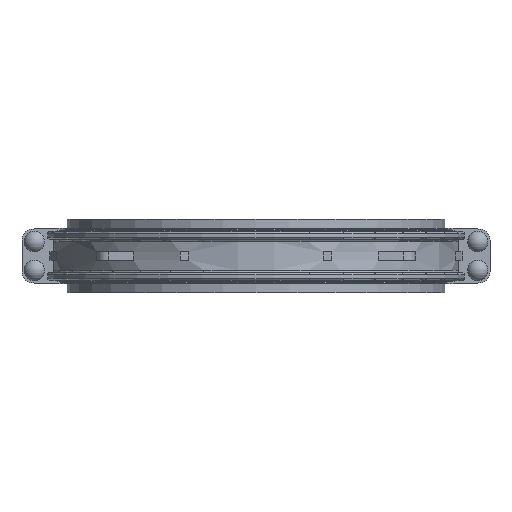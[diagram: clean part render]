
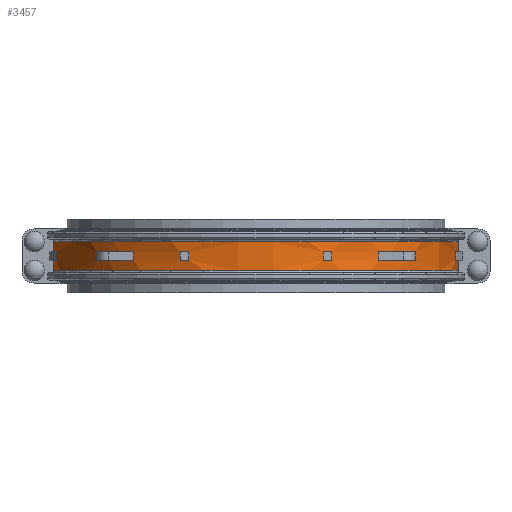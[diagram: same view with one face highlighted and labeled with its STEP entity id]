
A CAD part, front view. The second image highlights one B-rep face of the part: STEP entity #3457.
In plain terms, the highlighted cylindrical face has radius 628.777 mm (diameter 1257.55 mm), a partial arc.
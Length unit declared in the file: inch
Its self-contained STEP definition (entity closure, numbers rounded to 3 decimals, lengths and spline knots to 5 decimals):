
#135=CYLINDRICAL_SURFACE('',#3801,24.755);
#181=FACE_BOUND('',#501,.T.);
#182=FACE_BOUND('',#502,.T.);
#183=FACE_BOUND('',#503,.T.);
#184=FACE_BOUND('',#504,.T.);
#295=FACE_OUTER_BOUND('',#500,.T.);
#500=EDGE_LOOP('',(#2554,#2555,#2556,#2557,#2558,#2559,#2560,#2561,#2562,
#2563,#2564,#2565));
#501=EDGE_LOOP('',(#2566,#2567,#2568,#2569));
#502=EDGE_LOOP('',(#2570,#2571,#2572,#2573));
#503=EDGE_LOOP('',(#2574,#2575,#2576,#2577));
#504=EDGE_LOOP('',(#2578,#2579,#2580,#2581));
#722=LINE('',#5397,#979);
#723=LINE('',#5399,#980);
#726=LINE('',#5404,#983);
#727=LINE('',#5406,#984);
#748=LINE('',#5440,#1005);
#749=LINE('',#5442,#1006);
#752=LINE('',#5447,#1009);
#753=LINE('',#5449,#1010);
#755=LINE('',#5452,#1012);
#756=LINE('',#5454,#1013);
#774=LINE('',#5650,#1031);
#775=LINE('',#5653,#1032);
#776=LINE('',#5655,#1033);
#777=LINE('',#5658,#1034);
#979=VECTOR('',#4401,0.3937);
#980=VECTOR('',#4404,0.3937);
#983=VECTOR('',#4411,0.3937);
#984=VECTOR('',#4414,0.3937);
#1005=VECTOR('',#4461,0.3937);
#1006=VECTOR('',#4464,0.3937);
#1009=VECTOR('',#4471,0.3937);
#1010=VECTOR('',#4474,0.3937);
#1012=VECTOR('',#4478,0.3937);
#1013=VECTOR('',#4481,0.3937);
#1031=VECTOR('',#4513,0.3937);
#1032=VECTOR('',#4516,0.3937);
#1033=VECTOR('',#4517,0.3937);
#1034=VECTOR('',#4520,0.3937);
#1172=CIRCLE('',#3718,24.755);
#1173=CIRCLE('',#3720,24.755);
#1176=CIRCLE('',#3724,24.755);
#1177=CIRCLE('',#3726,24.755);
#1178=CIRCLE('',#3728,24.755);
#1181=CIRCLE('',#3732,24.755);
#1183=CIRCLE('',#3736,24.755);
#1184=CIRCLE('',#3738,24.755);
#1187=CIRCLE('',#3742,24.755);
#1188=CIRCLE('',#3744,24.755);
#1189=CIRCLE('',#3746,24.755);
#1192=CIRCLE('',#3750,24.755);
#1207=CIRCLE('',#3802,24.755);
#1208=CIRCLE('',#3803,24.755);
#1386=VERTEX_POINT('',#5231);
#1387=VERTEX_POINT('',#5232);
#1389=VERTEX_POINT('',#5238);
#1390=VERTEX_POINT('',#5239);
#1394=VERTEX_POINT('',#5249);
#1395=VERTEX_POINT('',#5250);
#1397=VERTEX_POINT('',#5256);
#1398=VERTEX_POINT('',#5257);
#1400=VERTEX_POINT('',#5263);
#1401=VERTEX_POINT('',#5264);
#1406=VERTEX_POINT('',#5275);
#1407=VERTEX_POINT('',#5277);
#1411=VERTEX_POINT('',#5288);
#1412=VERTEX_POINT('',#5289);
#1414=VERTEX_POINT('',#5295);
#1415=VERTEX_POINT('',#5296);
#1419=VERTEX_POINT('',#5306);
#1420=VERTEX_POINT('',#5307);
#1422=VERTEX_POINT('',#5313);
#1423=VERTEX_POINT('',#5314);
#1425=VERTEX_POINT('',#5320);
#1426=VERTEX_POINT('',#5321);
#1430=VERTEX_POINT('',#5331);
#1432=VERTEX_POINT('',#5334);
#1485=VERTEX_POINT('',#5649);
#1486=VERTEX_POINT('',#5651);
#1487=VERTEX_POINT('',#5654);
#1488=VERTEX_POINT('',#5656);
#1746=EDGE_CURVE('',#1386,#1387,#1172,.T.);
#1749=EDGE_CURVE('',#1389,#1390,#1173,.T.);
#1754=EDGE_CURVE('',#1394,#1395,#1176,.T.);
#1757=EDGE_CURVE('',#1397,#1398,#1177,.T.);
#1760=EDGE_CURVE('',#1400,#1401,#1178,.T.);
#1767=EDGE_CURVE('',#1406,#1407,#1181,.T.);
#1771=EDGE_CURVE('',#1411,#1412,#1183,.T.);
#1774=EDGE_CURVE('',#1414,#1415,#1184,.T.);
#1779=EDGE_CURVE('',#1419,#1420,#1187,.T.);
#1782=EDGE_CURVE('',#1422,#1423,#1188,.T.);
#1785=EDGE_CURVE('',#1425,#1426,#1189,.T.);
#1791=EDGE_CURVE('',#1432,#1430,#1192,.T.);
#1820=EDGE_CURVE('',#1423,#1397,#722,.T.);
#1821=EDGE_CURVE('',#1401,#1425,#723,.T.);
#1824=EDGE_CURVE('',#1426,#1400,#726,.T.);
#1825=EDGE_CURVE('',#1407,#1432,#727,.T.);
#1846=EDGE_CURVE('',#1412,#1386,#748,.T.);
#1847=EDGE_CURVE('',#1390,#1414,#749,.T.);
#1850=EDGE_CURVE('',#1415,#1389,#752,.T.);
#1851=EDGE_CURVE('',#1395,#1419,#753,.T.);
#1853=EDGE_CURVE('',#1420,#1394,#755,.T.);
#1854=EDGE_CURVE('',#1398,#1422,#756,.T.);
#1888=EDGE_CURVE('',#1430,#1485,#774,.T.);
#1889=EDGE_CURVE('',#1486,#1485,#1207,.T.);
#1890=EDGE_CURVE('',#1486,#1411,#775,.T.);
#1891=EDGE_CURVE('',#1387,#1487,#776,.T.);
#1892=EDGE_CURVE('',#1487,#1488,#1208,.T.);
#1893=EDGE_CURVE('',#1488,#1406,#777,.T.);
#2554=ORIENTED_EDGE('',*,*,#1825,.T.);
#2555=ORIENTED_EDGE('',*,*,#1791,.T.);
#2556=ORIENTED_EDGE('',*,*,#1888,.T.);
#2557=ORIENTED_EDGE('',*,*,#1889,.F.);
#2558=ORIENTED_EDGE('',*,*,#1890,.T.);
#2559=ORIENTED_EDGE('',*,*,#1771,.T.);
#2560=ORIENTED_EDGE('',*,*,#1846,.T.);
#2561=ORIENTED_EDGE('',*,*,#1746,.T.);
#2562=ORIENTED_EDGE('',*,*,#1891,.T.);
#2563=ORIENTED_EDGE('',*,*,#1892,.T.);
#2564=ORIENTED_EDGE('',*,*,#1893,.T.);
#2565=ORIENTED_EDGE('',*,*,#1767,.T.);
#2566=ORIENTED_EDGE('',*,*,#1760,.T.);
#2567=ORIENTED_EDGE('',*,*,#1821,.T.);
#2568=ORIENTED_EDGE('',*,*,#1785,.T.);
#2569=ORIENTED_EDGE('',*,*,#1824,.T.);
#2570=ORIENTED_EDGE('',*,*,#1757,.T.);
#2571=ORIENTED_EDGE('',*,*,#1854,.T.);
#2572=ORIENTED_EDGE('',*,*,#1782,.T.);
#2573=ORIENTED_EDGE('',*,*,#1820,.T.);
#2574=ORIENTED_EDGE('',*,*,#1754,.T.);
#2575=ORIENTED_EDGE('',*,*,#1851,.T.);
#2576=ORIENTED_EDGE('',*,*,#1779,.T.);
#2577=ORIENTED_EDGE('',*,*,#1853,.T.);
#2578=ORIENTED_EDGE('',*,*,#1749,.T.);
#2579=ORIENTED_EDGE('',*,*,#1847,.T.);
#2580=ORIENTED_EDGE('',*,*,#1774,.T.);
#2581=ORIENTED_EDGE('',*,*,#1850,.T.);
#3457=ADVANCED_FACE('',(#295,#181,#182,#183,#184),#135,.T.);
#3718=AXIS2_PLACEMENT_3D('',#5233,#4250,#4251);
#3720=AXIS2_PLACEMENT_3D('',#5240,#4256,#4257);
#3724=AXIS2_PLACEMENT_3D('',#5251,#4266,#4267);
#3726=AXIS2_PLACEMENT_3D('',#5258,#4272,#4273);
#3728=AXIS2_PLACEMENT_3D('',#5265,#4278,#4279);
#3732=AXIS2_PLACEMENT_3D('',#5279,#4290,#4291);
#3736=AXIS2_PLACEMENT_3D('',#5290,#4300,#4301);
#3738=AXIS2_PLACEMENT_3D('',#5297,#4306,#4307);
#3742=AXIS2_PLACEMENT_3D('',#5308,#4316,#4317);
#3744=AXIS2_PLACEMENT_3D('',#5315,#4322,#4323);
#3746=AXIS2_PLACEMENT_3D('',#5322,#4328,#4329);
#3750=AXIS2_PLACEMENT_3D('',#5335,#4339,#4340);
#3801=AXIS2_PLACEMENT_3D('',#5648,#4511,#4512);
#3802=AXIS2_PLACEMENT_3D('',#5652,#4514,#4515);
#3803=AXIS2_PLACEMENT_3D('',#5657,#4518,#4519);
#4250=DIRECTION('center_axis',(0.,0.,1.));
#4251=DIRECTION('ref_axis',(0.,1.,0.));
#4256=DIRECTION('center_axis',(0.,0.,1.));
#4257=DIRECTION('ref_axis',(0.,1.,0.));
#4266=DIRECTION('center_axis',(0.,0.,1.));
#4267=DIRECTION('ref_axis',(0.,1.,0.));
#4272=DIRECTION('center_axis',(0.,0.,1.));
#4273=DIRECTION('ref_axis',(0.,1.,0.));
#4278=DIRECTION('center_axis',(0.,0.,1.));
#4279=DIRECTION('ref_axis',(0.,1.,0.));
#4290=DIRECTION('center_axis',(0.,0.,1.));
#4291=DIRECTION('ref_axis',(0.,1.,0.));
#4300=DIRECTION('center_axis',(0.,0.,-1.));
#4301=DIRECTION('ref_axis',(0.,1.,0.));
#4306=DIRECTION('center_axis',(0.,0.,-1.));
#4307=DIRECTION('ref_axis',(0.,1.,0.));
#4316=DIRECTION('center_axis',(0.,0.,-1.));
#4317=DIRECTION('ref_axis',(0.,1.,0.));
#4322=DIRECTION('center_axis',(0.,0.,-1.));
#4323=DIRECTION('ref_axis',(0.,1.,0.));
#4328=DIRECTION('center_axis',(0.,0.,-1.));
#4329=DIRECTION('ref_axis',(0.,1.,0.));
#4339=DIRECTION('center_axis',(0.,0.,-1.));
#4340=DIRECTION('ref_axis',(0.,1.,0.));
#4401=DIRECTION('',(0.,0.,1.));
#4404=DIRECTION('',(0.,0.,-1.));
#4411=DIRECTION('',(0.,0.,1.));
#4414=DIRECTION('',(0.,0.,-1.));
#4461=DIRECTION('',(0.,0.,1.));
#4464=DIRECTION('',(0.,0.,-1.));
#4471=DIRECTION('',(0.,0.,1.));
#4474=DIRECTION('',(0.,0.,-1.));
#4478=DIRECTION('',(0.,0.,1.));
#4481=DIRECTION('',(0.,0.,-1.));
#4511=DIRECTION('center_axis',(0.,0.,-1.));
#4512=DIRECTION('ref_axis',(0.,1.,0.));
#4513=DIRECTION('',(0.,0.,-1.));
#4514=DIRECTION('center_axis',(0.,0.,-1.));
#4515=DIRECTION('ref_axis',(0.,1.,0.));
#4516=DIRECTION('',(0.,0.,1.));
#4517=DIRECTION('',(0.,0.,1.));
#4518=DIRECTION('center_axis',(0.,0.,-1.));
#4519=DIRECTION('ref_axis',(0.,1.,0.));
#4520=DIRECTION('',(0.,0.,-1.));
#5231=CARTESIAN_POINT('',(-24.3219,4.61034,0.5));
#5232=CARTESIAN_POINT('',(-24.62844,2.5,0.5));
#5233=CARTESIAN_POINT('Origin',(0.,0.,0.5));
#5238=CARTESIAN_POINT('',(-14.96435,19.72,0.5));
#5239=CARTESIAN_POINT('',(-19.38,15.40213,0.5));
#5240=CARTESIAN_POINT('Origin',(0.,0.,0.5));
#5249=CARTESIAN_POINT('',(-8.19271,23.36,0.5));
#5250=CARTESIAN_POINT('',(-9.2,22.98195,0.5));
#5251=CARTESIAN_POINT('Origin',(0.,0.,0.5));
#5256=CARTESIAN_POINT('',(9.2,22.98195,0.5));
#5257=CARTESIAN_POINT('',(8.19271,23.36,0.5));
#5258=CARTESIAN_POINT('Origin',(0.,0.,0.5));
#5263=CARTESIAN_POINT('',(19.38,15.40213,0.5));
#5264=CARTESIAN_POINT('',(14.96435,19.72,0.5));
#5265=CARTESIAN_POINT('Origin',(0.,0.,0.5));
#5275=CARTESIAN_POINT('',(24.62844,2.5,0.5));
#5277=CARTESIAN_POINT('',(24.3219,4.61034,0.5));
#5279=CARTESIAN_POINT('Origin',(0.,0.,0.5));
#5288=CARTESIAN_POINT('',(-24.62844,2.5,-0.5));
#5289=CARTESIAN_POINT('',(-24.3219,4.61034,-0.5));
#5290=CARTESIAN_POINT('Origin',(0.,0.,-0.5));
#5295=CARTESIAN_POINT('',(-19.38,15.40213,-0.5));
#5296=CARTESIAN_POINT('',(-14.96435,19.72,-0.5));
#5297=CARTESIAN_POINT('Origin',(0.,0.,-0.5));
#5306=CARTESIAN_POINT('',(-9.2,22.98195,-0.5));
#5307=CARTESIAN_POINT('',(-8.19271,23.36,-0.5));
#5308=CARTESIAN_POINT('Origin',(0.,0.,-0.5));
#5313=CARTESIAN_POINT('',(8.19271,23.36,-0.5));
#5314=CARTESIAN_POINT('',(9.2,22.98195,-0.5));
#5315=CARTESIAN_POINT('Origin',(0.,0.,-0.5));
#5320=CARTESIAN_POINT('',(14.96435,19.72,-0.5));
#5321=CARTESIAN_POINT('',(19.38,15.40213,-0.5));
#5322=CARTESIAN_POINT('Origin',(0.,0.,-0.5));
#5331=CARTESIAN_POINT('',(24.62844,2.5,-0.5));
#5334=CARTESIAN_POINT('',(24.3219,4.61034,-0.5));
#5335=CARTESIAN_POINT('Origin',(0.,0.,-0.5));
#5397=CARTESIAN_POINT('',(9.2,22.98195,-0.88225));
#5399=CARTESIAN_POINT('',(14.96435,19.72,-0.88225));
#5404=CARTESIAN_POINT('',(19.38,15.40213,-0.88225));
#5406=CARTESIAN_POINT('',(24.3219,4.61034,-0.88225));
#5440=CARTESIAN_POINT('',(-24.3219,4.61034,-0.88225));
#5442=CARTESIAN_POINT('',(-19.38,15.40213,-0.88225));
#5447=CARTESIAN_POINT('',(-14.96435,19.72,-0.88225));
#5449=CARTESIAN_POINT('',(-9.2,22.98195,-0.88225));
#5452=CARTESIAN_POINT('',(-8.19271,23.36,-0.88225));
#5454=CARTESIAN_POINT('',(8.19271,23.36,-0.88225));
#5648=CARTESIAN_POINT('Origin',(0.,0.,-0.88225));
#5649=CARTESIAN_POINT('',(24.62844,2.5,-1.76451));
#5650=CARTESIAN_POINT('',(24.62844,2.5,-0.88225));
#5651=CARTESIAN_POINT('',(-24.62844,2.5,-1.76451));
#5652=CARTESIAN_POINT('Origin',(0.,0.,-1.76451));
#5653=CARTESIAN_POINT('',(-24.62844,2.5,-0.88225));
#5654=CARTESIAN_POINT('',(-24.62844,2.5,1.76451));
#5655=CARTESIAN_POINT('',(-24.62844,2.5,-0.88225));
#5656=CARTESIAN_POINT('',(24.62844,2.5,1.76451));
#5657=CARTESIAN_POINT('Origin',(0.,0.,1.76451));
#5658=CARTESIAN_POINT('',(24.62844,2.5,-0.88225));
